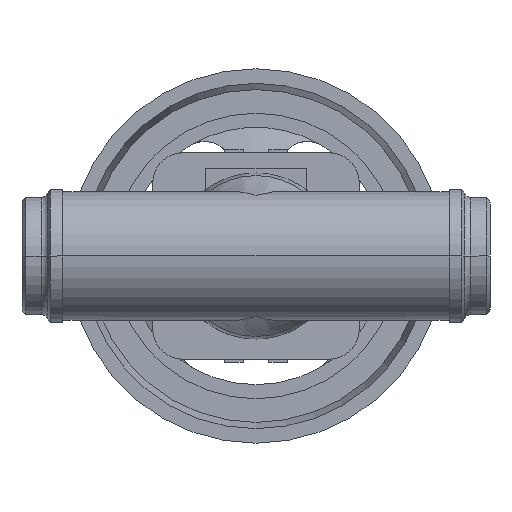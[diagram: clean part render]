
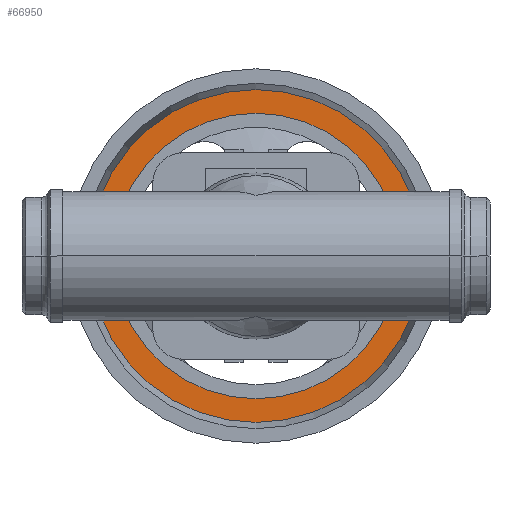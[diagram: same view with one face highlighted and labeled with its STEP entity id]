
A CAD part, front view. The second image highlights one B-rep face of the part: STEP entity #66950.
In plain terms, the highlighted planar face has unit normal (0, -1, 0).
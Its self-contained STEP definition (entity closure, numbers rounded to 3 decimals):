
#66400=CARTESIAN_POINT('',(171.109,304.9,0.)
);
#66410=VERTEX_POINT('',#66400);
#66440=CARTESIAN_POINT('',(100.,304.9,0.));
#66450=DIRECTION('',(0.,1.,0.));
#66460=DIRECTION('',(-1.,0.,0.));
#66470=AXIS2_PLACEMENT_3D('',#66440,#66450,#66460);
#66480=CIRCLE('',#66470,71.109);
#66490=CARTESIAN_POINT('',(28.891,304.9,0.));
#66500=VERTEX_POINT('',#66490);
#66510=EDGE_CURVE('',#66500,#66410,#66480,.T.);
#66700=CARTESIAN_POINT('',(33.946,304.9,0.))
;
#66710=DIRECTION('',(0.,-1.,0.));
#66720=DIRECTION('',(1.,0.,0.));
#66730=AXIS2_PLACEMENT_3D('',#66700,#66710,#66720);
#66740=PLANE('',#66730);
#66750=EDGE_CURVE('',#66410,#66500,#66480,.T.);
#66760=ORIENTED_EDGE('',*,*,#66750,.F.);
#66770=ORIENTED_EDGE('',*,*,#66510,.F.);
#66780=EDGE_LOOP('',(#66770,#66760));
#66790=FACE_OUTER_BOUND('',#66780,.T.);
#66800=CARTESIAN_POINT('',(100.,304.9,0.));
#66810=DIRECTION('',(0.,1.,0.));
#66820=DIRECTION('',(-1.,0.,0.));
#66830=AXIS2_PLACEMENT_3D('',#66800,#66810,#66820);
#66840=CIRCLE('',#66830,61.);
#66850=CARTESIAN_POINT('',(39.,304.9,0.));
#66860=VERTEX_POINT('',#66850);
#66870=CARTESIAN_POINT('',(161.,304.9,0.));
#66880=VERTEX_POINT('',#66870);
#66890=EDGE_CURVE('',#66860,#66880,#66840,.T.);
#66900=ORIENTED_EDGE('',*,*,#66890,.T.);
#66910=EDGE_CURVE('',#66880,#66860,#66840,.T.);
#66920=ORIENTED_EDGE('',*,*,#66910,.T.);
#66930=EDGE_LOOP('',(#66920,#66900));
#66940=FACE_BOUND('',#66930,.T.);
#66950=ADVANCED_FACE('',(#66790,#66940),#66740,.T.);
